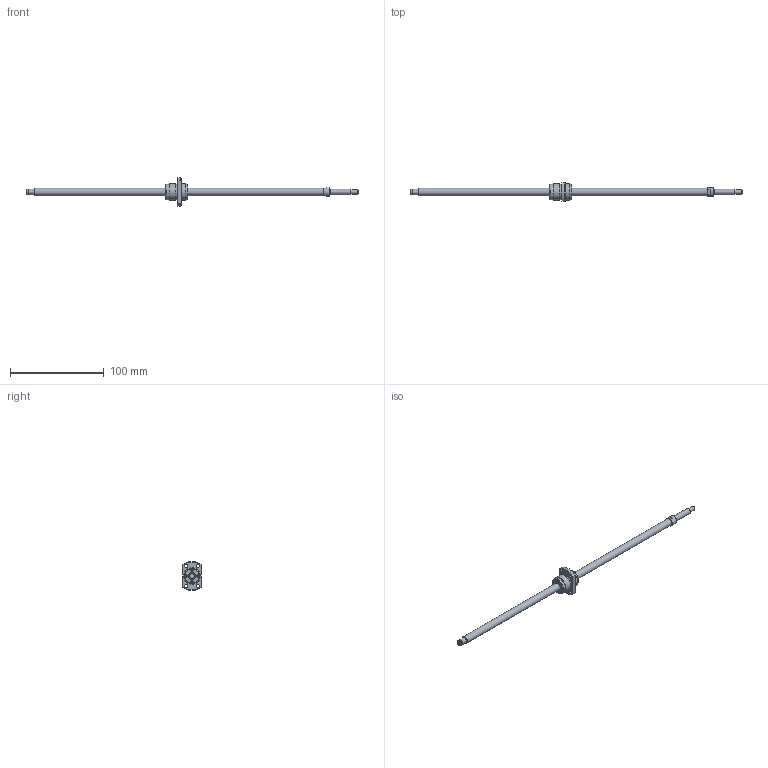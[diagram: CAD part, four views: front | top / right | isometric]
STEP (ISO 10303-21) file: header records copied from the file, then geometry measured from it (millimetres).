
FILE_DESCRIPTION(/* description */ ('STEP AP203'),/* implementation_level */ '2;1');
FILE_NAME(/* name */ 'BNK0810-3GT+355LC5Y(164)',/* time_stamp */ '2024-07-09T08:56:48+02:00',/* author */ ('License CC BY-ND 4.0'),/* organization */ ('CADENAS'),/* preprocessor_version */ 'ST-DEVELOPER v19.3',/* originating_system */ 'PARTsolutions',/* authorisation */ ' ');
FILE_SCHEMA (('CONFIG_CONTROL_DESIGN'));
Length unit declared in the file: millimetre
Products named in the file (3): BNK0810-3GT+355LC5Y(164); BNK 0810-3GT+355LC5Y Shaft; BNK 0810-3GT+355LC5Y Nut
Assembly tree (2 placements, depth 2):
  BNK0810-3GT+355LC5Y(164)
    BNK 0810-3GT+355LC5Y Shaft
    BNK 0810-3GT+355LC5Y Nut
Bounding box: 355 x 20 x 30.91 mm (x, y, z)
Volume: 22730.9 mm3; surface area: 12163.1 mm2
Topology: 2 solids, 2 shells, 112 faces, 256 edges, 166 vertices
Faces by surface type: plane 66, cylinder 27, cone 13, torus 6
Full cylindrical faces by diameter (mm): 3 x4, 3.4 x4, 4.5 x1, 5.7 x1, 6 x3, 8 x2, 9.5 x1, 16.2 x1, 17 x2, 18 x2
Entity records: 3085 total; most frequent: CARTESIAN_POINT 549, DIRECTION 520, ORIENTED_EDGE 444, EDGE_CURVE 222, AXIS2_PLACEMENT_3D 199, EDGE_LOOP 172, FACE_BOUND 172, VERTEX_POINT 164
